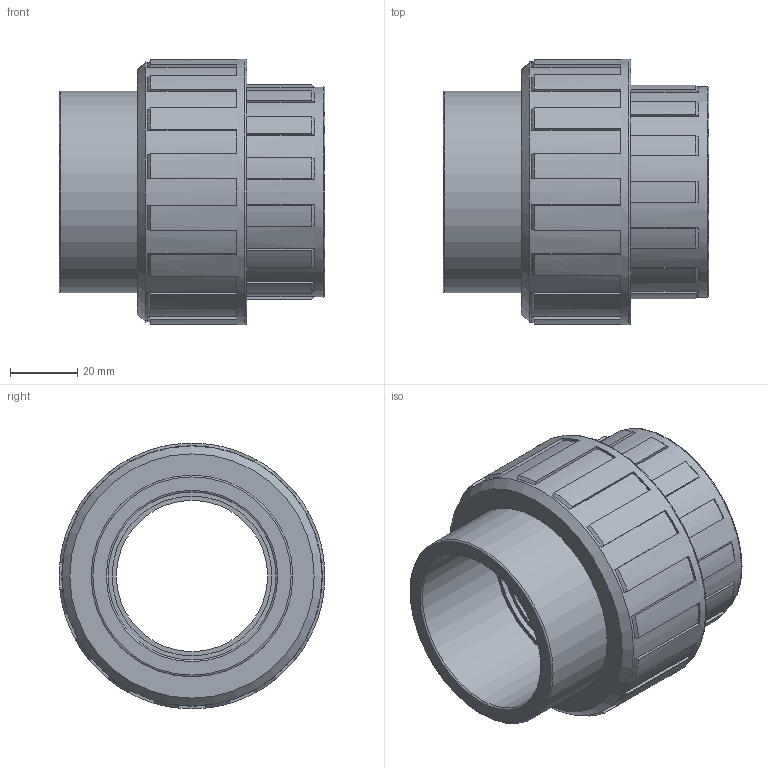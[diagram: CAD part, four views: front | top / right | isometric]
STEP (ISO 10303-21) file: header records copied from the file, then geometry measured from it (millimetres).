
FILE_DESCRIPTION(/* description */ ('PLASSON UNION+O RING-CEM PVC 50'),/* implementation_level */ '2;1');
FILE_NAME(/* name */ 'C:\Dropbox\KIMPROJECTS-Inventor\99-16-3568-Processing\PVC Catalog 2017\050800\050800050.ipt.stp',/* time_stamp */ '2017-12-07T15:57:49+02:00',/* author */ ('Кирилл'),/* organization */ (''),/* preprocessor_version */ 'ST-DEVELOPER v15.6',/* originating_system */ 'Autodesk Inventor 2015',/* authorisation */ '');
FILE_SCHEMA (('AUTOMOTIVE_DESIGN { 1 0 10303 214 3 1 1 }'));
Length unit declared in the file: millimetre
Products named in the file (1): 050800050
Bounding box: 79 x 79 x 79 mm (x, y, z)
Volume: 144631.6 mm3; surface area: 36181.2 mm2
Topology: 1 solids, 1 shells, 141 faces, 396 edges, 262 vertices
Faces by surface type: plane 83, cone 31, cylinder 22, torus 5
Full cylindrical faces by diameter (mm): 45 x1, 47.5 x1, 50 x2, 60 x1, 62.5 x1, 77.42 x1, 79 x1
Entity records: 4512 total; most frequent: DIRECTION 802, CARTESIAN_POINT 780, ORIENTED_EDGE 758, EDGE_CURVE 379, AXIS2_PLACEMENT_3D 281, VERTEX_POINT 259, LINE 240, VECTOR 240
